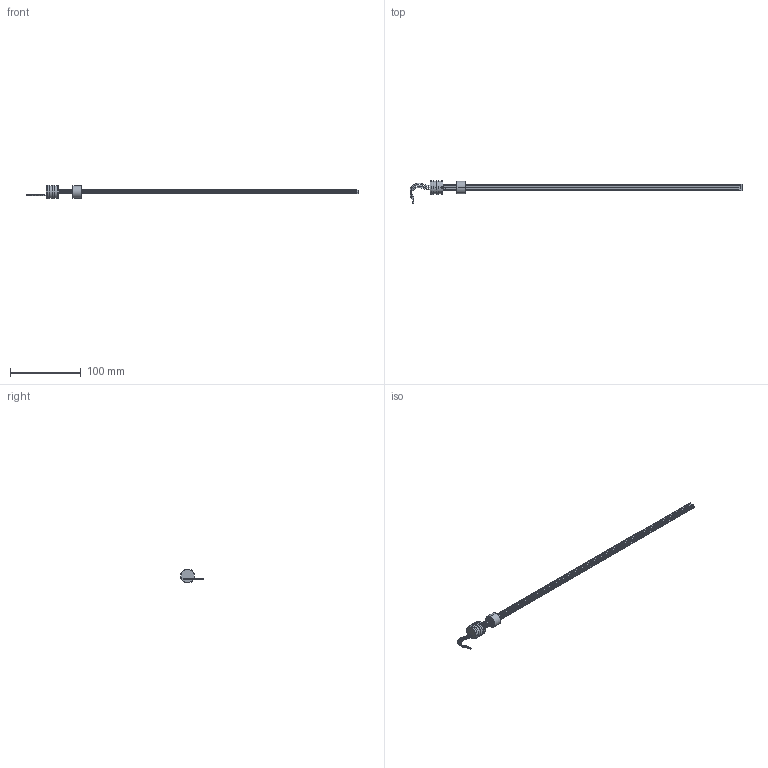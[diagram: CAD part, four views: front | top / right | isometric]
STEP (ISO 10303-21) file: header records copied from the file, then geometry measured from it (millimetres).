
FILE_DESCRIPTION (( 'STEP AP203' ), '1' );
FILE_NAME ('PS6508-regal.step', '2009-04-08T07:06:25', ( 'Gustaf Hederström' ), ( 'Cevican AB' ), 'SwSTEP 2.0', 'SolidWorks 2002308', '' );
FILE_SCHEMA (( 'CONFIG_CONTROL_DESIGN' ));
Length unit declared in the file: millimetre
Products named in the file (3): PS6508-regal; 30-0027_SW0001_6508_2; WIPER6500-7
Assembly tree (2 placements, depth 2):
  PS6508-regal
    WIPER6500-7
    30-0027_SW0001_6508_2
Bounding box: 469.62 x 32.31 x 19.7 mm (x, y, z)
Volume: 27414.8 mm3; surface area: 18536.4 mm2
Topology: 2 solids, 2 shells, 200 faces, 544 edges, 348 vertices
Faces by surface type: plane 89, cylinder 72, bspline 35, cone 4
Entity records: 7910 total; most frequent: CARTESIAN_POINT 2564, ORIENTED_EDGE 1088, DIRECTION 1044, EDGE_CURVE 544, AXIS2_PLACEMENT_3D 372, VERTEX_POINT 348, LINE 300, VECTOR 300
